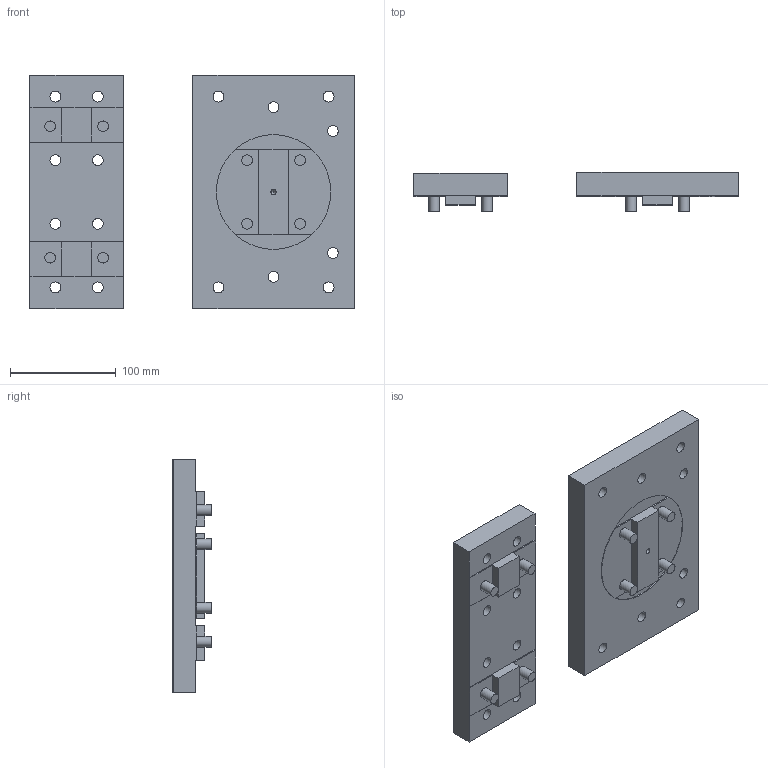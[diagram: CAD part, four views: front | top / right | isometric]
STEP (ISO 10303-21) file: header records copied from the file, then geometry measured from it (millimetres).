
FILE_DESCRIPTION(('STEP AP214'), '1');
FILE_NAME('BB.VS.160.32.010', '', ('UNSPECIFIED'), ('UNSPECIFIED'), 'ASCON STEP Converter 1.6', 'ASCON Math Kernel', '');
FILE_SCHEMA(('AUTOMOTIVE_DESIGN { 1 0 10303 214 3 1 1}'));
Length unit declared in the file: millimetre
Products named in the file (3): BB.VS.160.32.010 捘; BB.VS.160.32.010/002; BB.VS.160.32.010/001
Assembly tree (2 placements, depth 2):
  BB.VS.160.32.010 捘
    BB.VS.160.32.010/002
    BB.VS.160.32.010/001
Bounding box: 305.86 x 36.5 x 220 mm (x, y, z)
Volume: 1121519.4 mm3; surface area: 156516 mm2
Topology: 2 solids, 2 shells, 131 faces, 270 edges, 178 vertices
Faces by surface type: plane 71, cylinder 56, cone 4
Full cylindrical faces by diameter (mm): 1.5 x2, 10 x8, 10.2 x16, 22 x16, 23 x8, 50 x1, 126 x1
Entity records: 4807 total; most frequent: CARTESIAN_POINT 892, DIRECTION 588, ORIENTED_EDGE 424, EDGE_LOOP 254, AXIS2_PLACEMENT_3D 246, EDGE_CURVE 212, VERTEX_POINT 176, FACE_BOUND 148
